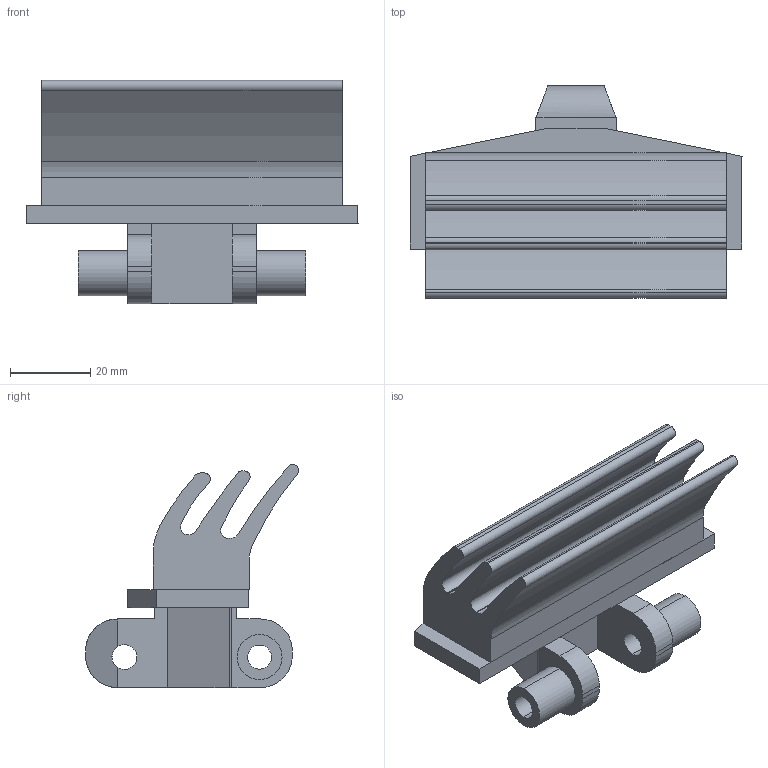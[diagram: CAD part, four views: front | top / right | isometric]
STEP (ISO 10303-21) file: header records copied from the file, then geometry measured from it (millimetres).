
FILE_DESCRIPTION (( 'STEP AP214' ), '1' );
FILE_NAME ('FMWT-5B.STEP', '2011-04-14T11:09:28', ( '.' ), ( '' ), 'SwSTEP 2.0', 'SolidWorks 2010', '' );
FILE_SCHEMA (( 'AUTOMOTIVE_DESIGN' ));
Length unit declared in the file: millimetre
Products named in the file (1): FMWT-5B
Bounding box: 83 x 53.22 x 55.79 mm (x, y, z)
Volume: 68021.8 mm3; surface area: 22667.5 mm2
Topology: 1 solids, 1 shells, 80 faces, 223 edges, 146 vertices
Faces by surface type: plane 43, cylinder 37
Entity records: 2623 total; most frequent: CARTESIAN_POINT 474, DIRECTION 449, ORIENTED_EDGE 446, EDGE_CURVE 223, AXIS2_PLACEMENT_3D 153, VERTEX_POINT 146, VECTOR 143, LINE 143
